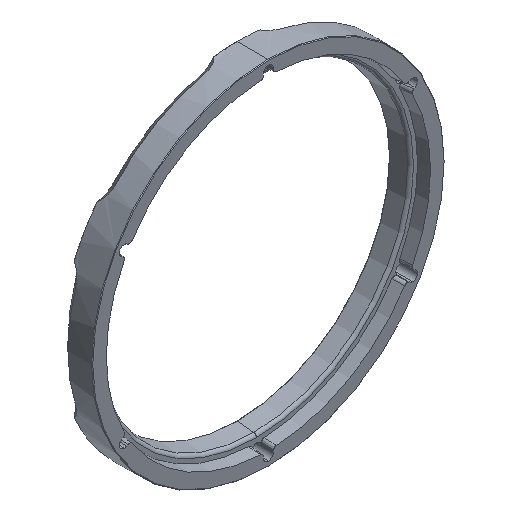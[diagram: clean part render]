
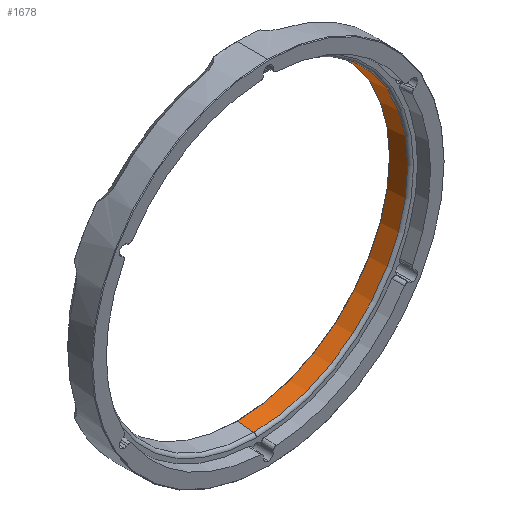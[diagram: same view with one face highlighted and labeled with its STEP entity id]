
A CAD part, isometric view. The second image highlights one B-rep face of the part: STEP entity #1678.
In plain terms, the highlighted conical face has half-angle 5 degrees and reference radius 49.904 mm.
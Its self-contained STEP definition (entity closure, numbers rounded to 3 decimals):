
#17 = DIRECTION ( 'NONE',  ( 0., -1., 0. ) ) ;
#68 = ORIENTED_EDGE ( 'NONE', *, *, #259, .T. ) ;
#88 = CIRCLE ( 'NONE', #2903, 49.904 ) ;
#159 = CARTESIAN_POINT ( 'NONE',  ( 0., 4.763, 0. ) ) ;
#259 = EDGE_CURVE ( 'NONE', #714, #446, #569, .T. ) ;
#406 = DIRECTION ( 'NONE',  ( 0., 0., -1. ) ) ;
#446 = VERTEX_POINT ( 'NONE', #2297 ) ;
#569 = LINE ( 'NONE', #2159, #2023 ) ;
#659 = EDGE_CURVE ( 'NONE', #2136, #694, #3406, .T. ) ;
#694 = VERTEX_POINT ( 'NONE', #1338 ) ;
#714 = VERTEX_POINT ( 'NONE', #2895 ) ;
#1021 = EDGE_LOOP ( 'NONE', ( #2976, #2451, #68, #1893 ) ) ;
#1112 = DIRECTION ( 'NONE',  ( 0., -0.996, 0.087 ) ) ;
#1145 = DIRECTION ( 'NONE',  ( 0., -1., 0. ) ) ;
#1196 = FACE_OUTER_BOUND ( 'NONE', #1021, .T. ) ;
#1241 = AXIS2_PLACEMENT_3D ( 'NONE', #159, #1145, #406 ) ;
#1338 = CARTESIAN_POINT ( 'NONE',  ( 0., 4.763, 49.904 ) ) ;
#1475 = CIRCLE ( 'NONE', #3400, 49.432 ) ;
#1608 = DIRECTION ( 'NONE',  ( 0., -0.996, -0.087 ) ) ;
#1661 = EDGE_CURVE ( 'NONE', #446, #694, #88, .T. ) ;
#1678 = ADVANCED_FACE ( 'NONE', ( #1196 ), #2730, .F. ) ;
#1693 = VECTOR ( 'NONE', #1112, 1000. ) ;
#1893 = ORIENTED_EDGE ( 'NONE', *, *, #1661, .T. ) ;
#1923 = CARTESIAN_POINT ( 'NONE',  ( 0., 10.151, 0. ) ) ;
#2023 = VECTOR ( 'NONE', #1608, 1000. ) ;
#2118 = DIRECTION ( 'NONE',  ( 0., 0., -1. ) ) ;
#2136 = VERTEX_POINT ( 'NONE', #2145 ) ;
#2145 = CARTESIAN_POINT ( 'NONE',  ( 0., 10.151, 49.432 ) ) ;
#2159 = CARTESIAN_POINT ( 'NONE',  ( 0., 4.763, -49.904 ) ) ;
#2297 = CARTESIAN_POINT ( 'NONE',  ( 0., 4.763, -49.904 ) ) ;
#2451 = ORIENTED_EDGE ( 'NONE', *, *, #2887, .T. ) ;
#2730 = CONICAL_SURFACE ( 'NONE', #1241, 49.904, 0.087 ) ;
#2887 = EDGE_CURVE ( 'NONE', #2136, #714, #1475, .T. ) ;
#2895 = CARTESIAN_POINT ( 'NONE',  ( 0., 10.151, -49.432 ) ) ;
#2903 = AXIS2_PLACEMENT_3D ( 'NONE', #2934, #17, #2118 ) ;
#2934 = CARTESIAN_POINT ( 'NONE',  ( 0., 4.763, 0. ) ) ;
#2976 = ORIENTED_EDGE ( 'NONE', *, *, #659, .F. ) ;
#3132 = CARTESIAN_POINT ( 'NONE',  ( 0., 4.763, 49.904 ) ) ;
#3171 = DIRECTION ( 'NONE',  ( 0., 1., 0. ) ) ;
#3190 = DIRECTION ( 'NONE',  ( 0., 0., 1. ) ) ;
#3400 = AXIS2_PLACEMENT_3D ( 'NONE', #1923, #3171, #3190 ) ;
#3406 = LINE ( 'NONE', #3132, #1693 ) ;
